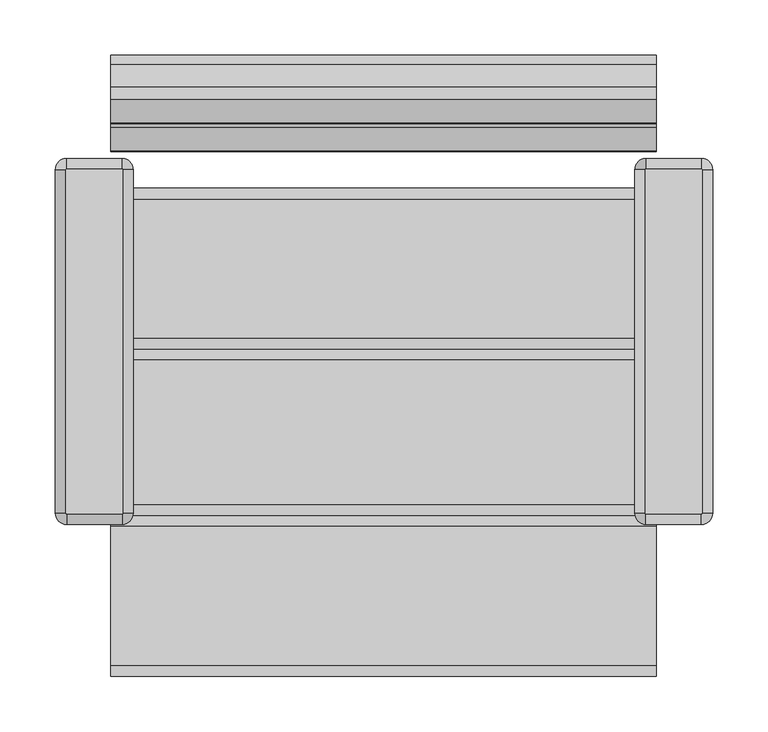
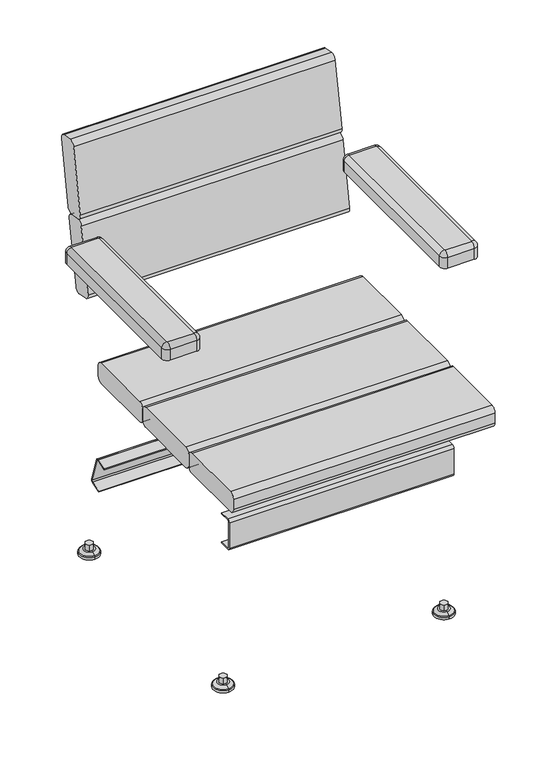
"""IFC4 building model written with IfcOpenShell, lengths in millimetres: furniture geometry, Roros Produkter - Trend - Chair - Armrests - 32974 : Roros Produkter - Trend - Chair - Armrests - 32974."""

from ifc_helpers import new_model, si_unit, point, frame, frame_2d, origin, place, context, project, spatial, polyline, circle_curve, ellipse_curve, trimmed, segment, composite_curve, outline, extrude, source, transform, mapped, element, save
from ifc_brep_helpers import plane_surface, cylinder_surface, revolved_surface, advanced_brep


def furniture_7d017813(model_context):
    return source(origin(), model_context, "Body", "SolidModel", [
        advanced_brep(
        [(-286.0, -180.9502129, 674.464), (-296.0, -170.9502129, 674.464), (-296.0, -170.9502129, 653.464), (-286.0, -180.9502129, 653.464), (-286.0, -171.9502129, 683.464), (-287.0, -170.9502129, 683.464), (-236.0, -180.9502129, 653.464), (-236.0, -180.9502129, 674.464), (-236.0, -171.9502129, 683.464), (-226.0, -170.9502129, 653.464), (-226.0, -170.9502129, 674.464), (-235.0, -170.9502129, 683.464), (-226.0, 139.0497871, 653.464), (-226.0, 139.0497871, 674.464), (-235.0, 139.0497871, 683.464), (-236.0, 149.0497871, 653.464), (-236.0, 149.0497871, 674.464), (-236.0, 140.0497871, 683.464), (-286.0, 149.0497871, 653.464), (-286.0, 149.0497871, 674.464), (-286.0, 140.0497871, 683.464), (-296.0, 139.0497871, 653.464), (-296.0, 139.0497871, 674.464), (-287.0, 139.0497871, 683.464)],
        [
            (0, 1, circle_curve(frame((-286.0, -170.9502129, 674.464), z_axis=(0.0, 0.0, -1.0), x_axis=(-1.0, 0.0, 0.0)), 10.0)),
            (1, 2),
            (2, 3, circle_curve(frame((-286.0, -170.9502129, 653.464), z_axis=(0.0, 0.0, 1.0), x_axis=(-1.0, 0.0, 0.0)), 10.0)),
            (3, 0),
            (0, 4, circle_curve(frame((-286.0, -171.9502129, 674.464), z_axis=(-1.0, 0.0, 0.0), x_axis=(0.0, 1.0, 0.0)), 9.0)),
            (4, 5, circle_curve(frame((-286.0, -170.9502129, 683.464), z_axis=(0.0, 0.0, -1.0), x_axis=(-1.0, 0.0, 0.0)), 1.0)),
            (5, 1, circle_curve(frame((-287.0, -170.9502129, 674.464), z_axis=(0.0, -1.0, 0.0), x_axis=(1.0, 0.0, 0.0)), 9.0)),
            (3, 6),
            (6, 7),
            (7, 0),
            (7, 8, circle_curve(frame((-236.0, -171.9502129, 674.464), z_axis=(-1.0, 0.0, 0.0), x_axis=(0.0, 1.0, 0.0)), 9.0)),
            (8, 4),
            (6, 9, circle_curve(frame((-236.0, -170.9502129, 653.464), z_axis=(0.0, 0.0, 1.0), x_axis=(0.0, -1.0, 0.0)), 10.0)),
            (9, 10),
            (10, 7, circle_curve(frame((-236.0, -170.9502129, 674.464), z_axis=(0.0, 0.0, -1.0), x_axis=(0.0, -1.0, 0.0)), 10.0)),
            (10, 11, circle_curve(frame((-235.0, -170.9502129, 674.464), z_axis=(0.0, -1.0, 0.0), x_axis=(-1.0, 0.0, 0.0)), 9.0)),
            (11, 8, circle_curve(frame((-236.0, -170.9502129, 683.464), z_axis=(0.0, 0.0, -1.0), x_axis=(0.0, -1.0, 0.0)), 1.0)),
            (9, 12),
            (12, 13),
            (13, 10),
            (13, 14, circle_curve(frame((-235.0, 139.0497871, 674.464), z_axis=(0.0, -1.0, 0.0), x_axis=(-1.0, 0.0, 0.0)), 9.0)),
            (14, 11),
            (12, 15, circle_curve(frame((-236.0, 139.0497871, 653.464), z_axis=(0.0, 0.0, 1.0), x_axis=(1.0, 0.0, 0.0)), 10.0)),
            (15, 16),
            (16, 13, circle_curve(frame((-236.0, 139.0497871, 674.464), z_axis=(0.0, 0.0, -1.0), x_axis=(1.0, 0.0, 0.0)), 10.0)),
            (16, 17, circle_curve(frame((-236.0, 140.0497871, 674.464), z_axis=(1.0, 0.0, 0.0), x_axis=(0.0, -1.0, 0.0)), 9.0)),
            (17, 14, circle_curve(frame((-236.0, 139.0497871, 683.464), z_axis=(0.0, 0.0, -1.0), x_axis=(1.0, 0.0, 0.0)), 1.0)),
            (15, 18),
            (18, 19),
            (19, 16),
            (19, 20, circle_curve(frame((-286.0, 140.0497871, 674.464), z_axis=(1.0, 0.0, 0.0), x_axis=(0.0, -1.0, 0.0)), 9.0)),
            (20, 17),
            (18, 21, circle_curve(frame((-286.0, 139.0497871, 653.464), z_axis=(0.0, 0.0, 1.0), x_axis=(0.0, 1.0, 0.0)), 10.0)),
            (21, 22),
            (22, 19, circle_curve(frame((-286.0, 139.0497871, 674.464), z_axis=(0.0, 0.0, -1.0), x_axis=(0.0, 1.0, 0.0)), 10.0)),
            (22, 23, circle_curve(frame((-287.0, 139.0497871, 674.464), z_axis=(0.0, 1.0, 0.0), x_axis=(1.0, 0.0, 0.0)), 9.0)),
            (23, 20, circle_curve(frame((-286.0, 139.0497871, 683.464), z_axis=(0.0, 0.0, -1.0), x_axis=(0.0, 1.0, 0.0)), 1.0)),
            (1, 22),
            (21, 2),
            (5, 23),
        ],
        [
            cylinder_surface(frame((-286.0, -170.9502129, 0.0), z_axis=(0.0, 0.0, 1.0), x_axis=(-1.0, 0.0, 0.0)), 10.0),
            revolved_surface(trimmed(ellipse_curve(frame((-287.0, -170.9502129, 674.464), z_axis=(0.0, 1.0, 0.0), x_axis=(1.0, 0.0, 0.0)), 9.0, 9.0), [point((-296.0, -170.9502129, 674.464))], [point((-287.0, -170.9502129, 683.464))], True, "CARTESIAN"), (-286.0, -170.9502129, 0.0), (0.0, 0.0, 1.0)),
            plane_surface(frame((-286.0, -180.9502129, 653.464), z_axis=(0.0, -1.0, 0.0), x_axis=(1.0, 0.0, 0.0))),
            cylinder_surface(frame((-286.0, -171.9502129, 674.464), z_axis=(-1.0, 0.0, 0.0), x_axis=(0.0, 1.0, 0.0)), 9.0),
            cylinder_surface(frame((-236.0, -170.9502129, 0.0), z_axis=(0.0, 0.0, 1.0), x_axis=(0.0, -1.0, 0.0)), 10.0),
            revolved_surface(trimmed(ellipse_curve(frame((-236.0, -171.9502129, 674.464), z_axis=(-1.0, 0.0, 0.0), x_axis=(0.0, 1.0, 0.0)), 9.0, 9.0), [point((-236.0, -180.9502129, 674.464))], [point((-236.0, -171.9502129, 683.464))], True, "CARTESIAN"), (-236.0, -170.9502129, 0.0), (0.0, 0.0, 1.0)),
            plane_surface(frame((-226.0, -170.9502129, 653.464), z_axis=(1.0, 0.0, 0.0), x_axis=(0.0, 1.0, 0.0))),
            cylinder_surface(frame((-235.0, -170.9502129, 674.464), z_axis=(0.0, -1.0, 0.0), x_axis=(-1.0, 0.0, 0.0)), 9.0),
            cylinder_surface(frame((-236.0, 139.0497871, 0.0), z_axis=(0.0, 0.0, 1.0), x_axis=(1.0, 0.0, 0.0)), 10.0),
            revolved_surface(trimmed(ellipse_curve(frame((-235.0, 139.0497871, 674.464), z_axis=(0.0, -1.0, 0.0), x_axis=(-1.0, 0.0, 0.0)), 9.0, 9.0), [point((-226.0, 139.0497871, 674.464))], [point((-235.0, 139.0497871, 683.464))], True, "CARTESIAN"), (-236.0, 139.0497871, 0.0), (0.0, 0.0, 1.0)),
            plane_surface(frame((-236.0, 149.0497871, 653.464), z_axis=(0.0, 1.0, 0.0), x_axis=(-1.0, 0.0, 0.0))),
            cylinder_surface(frame((-236.0, 140.0497871, 674.464), z_axis=(1.0, 0.0, 0.0), x_axis=(0.0, -1.0, 0.0)), 9.0),
            cylinder_surface(frame((-286.0, 139.0497871, 0.0), z_axis=(0.0, 0.0, 1.0), x_axis=(0.0, 1.0, 0.0)), 10.0),
            revolved_surface(trimmed(ellipse_curve(frame((-286.0, 140.0497871, 674.464), z_axis=(1.0, 0.0, 0.0), x_axis=(0.0, -1.0, 0.0)), 9.0, 9.0), [point((-286.0, 149.0497871, 674.464))], [point((-286.0, 140.0497871, 683.464))], True, "CARTESIAN"), (-286.0, 139.0497871, 0.0), (0.0, 0.0, 1.0)),
            plane_surface(frame((-296.0, 139.0497871, 653.464), z_axis=(-1.0, 0.0, 0.0), x_axis=(0.0, -1.0, 0.0))),
            cylinder_surface(frame((-287.0, 139.0497871, 674.464), z_axis=(0.0, 1.0, 0.0), x_axis=(1.0, 0.0, 0.0)), 9.0),
            plane_surface(frame((-287.0, 139.0497871, 653.464), z_axis=(0.0, 0.0, -1.0), x_axis=(0.0, -1.0, 0.0))),
            plane_surface(frame((-286.0, 140.0497871, 683.464), z_axis=(0.0, 0.0, 1.0), x_axis=(-1.0, 0.0, 0.0))),
        ],
        [
            (0, [[1, 2, 3, 4]]),
            (1, [[-1, 5, 6, 7]]),
            (2, [[-4, 8, 9, 10]]),
            (3, [[-5, -10, 11, 12]]),
            (4, [[-9, 13, 14, 15]]),
            (5, [[-11, -15, 16, 17]]),
            (6, [[-14, 18, 19, 20]]),
            (7, [[-16, -20, 21, 22]]),
            (8, [[-19, 23, 24, 25]]),
            (9, [[-21, -25, 26, 27]]),
            (10, [[-24, 28, 29, 30]]),
            (11, [[-26, -30, 31, 32]]),
            (12, [[-29, 33, 34, 35]]),
            (13, [[-31, -35, 36, 37]]),
            (14, [[-2, 38, -34, 39]]),
            (15, [[-7, 40, -36, -38]]),
            (16, [[-3, -39, -33, -28, -23, -18, -13, -8]]),
            (17, [[-6, -12, -17, -22, -27, -32, -37, -40]]),
        ],
    ),
        advanced_brep(
        [(286.0, -180.9502129, 674.464), (286.0, -180.9502129, 653.464), (296.0, -170.9502129, 653.464), (296.0, -170.9502129, 674.464), (287.0, -170.9502129, 683.464), (286.0, -171.9502129, 683.464), (236.0, -180.9502129, 674.464), (236.0, -180.9502129, 653.464), (236.0, -171.9502129, 683.464), (226.0, -170.9502129, 674.464), (226.0, -170.9502129, 653.464), (235.0, -170.9502129, 683.464), (226.0, 139.0497871, 674.464), (226.0, 139.0497871, 653.464), (235.0, 139.0497871, 683.464), (236.0, 149.0497871, 674.464), (236.0, 149.0497871, 653.464), (236.0, 140.0497871, 683.464), (286.0, 149.0497871, 674.464), (286.0, 149.0497871, 653.464), (286.0, 140.0497871, 683.464), (296.0, 139.0497871, 674.464), (296.0, 139.0497871, 653.464), (287.0, 139.0497871, 683.464)],
        [
            (0, 1),
            (1, 2, circle_curve(frame((286.0, -170.9502129, 653.464), z_axis=(0.0, 0.0, 1.0), x_axis=(1.0, 0.0, 0.0)), 10.0)),
            (2, 3),
            (3, 0, circle_curve(frame((286.0, -170.9502129, 674.464), z_axis=(0.0, 0.0, -1.0), x_axis=(1.0, 0.0, 0.0)), 10.0)),
            (3, 4, circle_curve(frame((287.0, -170.9502129, 674.464), z_axis=(0.0, -1.0, 0.0), x_axis=(-1.0, 0.0, 0.0)), 9.0)),
            (4, 5, circle_curve(frame((286.0, -170.9502129, 683.464), z_axis=(0.0, 0.0, -1.0), x_axis=(1.0, 0.0, 0.0)), 1.0)),
            (5, 0, circle_curve(frame((286.0, -171.9502129, 674.464), z_axis=(1.0, 0.0, 0.0), x_axis=(0.0, 1.0, 0.0)), 9.0)),
            (0, 6),
            (6, 7),
            (7, 1),
            (5, 8),
            (8, 6, circle_curve(frame((236.0, -171.9502129, 674.464), z_axis=(1.0, 0.0, 0.0), x_axis=(0.0, 1.0, 0.0)), 9.0)),
            (6, 9, circle_curve(frame((236.0, -170.9502129, 674.464), z_axis=(0.0, 0.0, -1.0), x_axis=(0.0, -1.0, 0.0)), 10.0)),
            (9, 10),
            (10, 7, circle_curve(frame((236.0, -170.9502129, 653.464), z_axis=(0.0, 0.0, 1.0), x_axis=(0.0, -1.0, 0.0)), 10.0)),
            (8, 11, circle_curve(frame((236.0, -170.9502129, 683.464), z_axis=(0.0, 0.0, -1.0), x_axis=(0.0, -1.0, 0.0)), 1.0)),
            (11, 9, circle_curve(frame((235.0, -170.9502129, 674.464), z_axis=(0.0, -1.0, 0.0), x_axis=(1.0, 0.0, 0.0)), 9.0)),
            (9, 12),
            (12, 13),
            (13, 10),
            (11, 14),
            (14, 12, circle_curve(frame((235.0, 139.0497871, 674.464), z_axis=(0.0, -1.0, 0.0), x_axis=(1.0, 0.0, 0.0)), 9.0)),
            (12, 15, circle_curve(frame((236.0, 139.0497871, 674.464), z_axis=(0.0, 0.0, -1.0), x_axis=(-1.0, 0.0, 0.0)), 10.0)),
            (15, 16),
            (16, 13, circle_curve(frame((236.0, 139.0497871, 653.464), z_axis=(0.0, 0.0, 1.0), x_axis=(-1.0, 0.0, 0.0)), 10.0)),
            (14, 17, circle_curve(frame((236.0, 139.0497871, 683.464), z_axis=(0.0, 0.0, -1.0), x_axis=(-1.0, 0.0, 0.0)), 1.0)),
            (17, 15, circle_curve(frame((236.0, 140.0497871, 674.464), z_axis=(-1.0, 0.0, 0.0), x_axis=(0.0, -1.0, 0.0)), 9.0)),
            (15, 18),
            (18, 19),
            (19, 16),
            (17, 20),
            (20, 18, circle_curve(frame((286.0, 140.0497871, 674.464), z_axis=(-1.0, 0.0, 0.0), x_axis=(0.0, -1.0, 0.0)), 9.0)),
            (18, 21, circle_curve(frame((286.0, 139.0497871, 674.464), z_axis=(0.0, 0.0, -1.0), x_axis=(0.0, 1.0, 0.0)), 10.0)),
            (21, 22),
            (22, 19, circle_curve(frame((286.0, 139.0497871, 653.464), z_axis=(0.0, 0.0, 1.0), x_axis=(0.0, 1.0, 0.0)), 10.0)),
            (20, 23, circle_curve(frame((286.0, 139.0497871, 683.464), z_axis=(0.0, 0.0, -1.0), x_axis=(0.0, 1.0, 0.0)), 1.0)),
            (23, 21, circle_curve(frame((287.0, 139.0497871, 674.464), z_axis=(0.0, 1.0, 0.0), x_axis=(-1.0, 0.0, 0.0)), 9.0)),
            (2, 22),
            (21, 3),
            (23, 4),
        ],
        [
            cylinder_surface(frame((286.0, -170.9502129, 0.0), z_axis=(0.0, 0.0, 1.0), x_axis=(1.0, 0.0, 0.0)), 10.0),
            revolved_surface(trimmed(ellipse_curve(frame((287.0, -170.9502129, 674.464), z_axis=(0.0, -1.0, 0.0), x_axis=(-1.0, 0.0, 0.0)), 9.0, 9.0), [point((296.0, -170.9502129, 674.464))], [point((287.0, -170.9502129, 683.464))], True, "CARTESIAN"), (286.0, -170.9502129, 0.0), (0.0, 0.0, 1.0)),
            plane_surface(frame((286.0, -180.9502129, 653.464), z_axis=(0.0, -1.0, 0.0), x_axis=(-1.0, 0.0, 0.0))),
            cylinder_surface(frame((286.0, -171.9502129, 674.464), z_axis=(1.0, 0.0, 0.0), x_axis=(0.0, 1.0, 0.0)), 9.0),
            cylinder_surface(frame((236.0, -170.9502129, 0.0), z_axis=(0.0, 0.0, 1.0), x_axis=(0.0, -1.0, 0.0)), 10.0),
            revolved_surface(trimmed(ellipse_curve(frame((236.0, -171.9502129, 674.464), z_axis=(-1.0, 0.0, 0.0), x_axis=(0.0, 1.0, 0.0)), 9.0, 9.0), [point((236.0, -180.9502129, 674.464))], [point((236.0, -171.9502129, 683.464))], True, "CARTESIAN"), (236.0, -170.9502129, 0.0), (0.0, 0.0, 1.0)),
            plane_surface(frame((226.0, -170.9502129, 653.464), z_axis=(-1.0, 0.0, 0.0), x_axis=(0.0, 1.0, 0.0))),
            cylinder_surface(frame((235.0, -170.9502129, 674.464), z_axis=(0.0, -1.0, 0.0), x_axis=(1.0, 0.0, 0.0)), 9.0),
            cylinder_surface(frame((236.0, 139.0497871, 0.0), z_axis=(0.0, 0.0, 1.0), x_axis=(-1.0, 0.0, 0.0)), 10.0),
            revolved_surface(trimmed(ellipse_curve(frame((235.0, 139.0497871, 674.464), z_axis=(0.0, 1.0, 0.0), x_axis=(1.0, 0.0, 0.0)), 9.0, 9.0), [point((226.0, 139.0497871, 674.464))], [point((235.0, 139.0497871, 683.464))], True, "CARTESIAN"), (236.0, 139.0497871, 0.0), (0.0, 0.0, 1.0)),
            plane_surface(frame((236.0, 149.0497871, 653.464), z_axis=(0.0, 1.0, 0.0), x_axis=(1.0, 0.0, 0.0))),
            cylinder_surface(frame((236.0, 140.0497871, 674.464), z_axis=(-1.0, 0.0, 0.0), x_axis=(0.0, -1.0, 0.0)), 9.0),
            cylinder_surface(frame((286.0, 139.0497871, 0.0), z_axis=(0.0, 0.0, 1.0), x_axis=(0.0, 1.0, 0.0)), 10.0),
            revolved_surface(trimmed(ellipse_curve(frame((286.0, 140.0497871, 674.464), z_axis=(1.0, 0.0, 0.0), x_axis=(0.0, -1.0, 0.0)), 9.0, 9.0), [point((286.0, 149.0497871, 674.464))], [point((286.0, 140.0497871, 683.464))], True, "CARTESIAN"), (286.0, 139.0497871, 0.0), (0.0, 0.0, 1.0)),
            plane_surface(frame((296.0, 139.0497871, 653.464), z_axis=(1.0, 0.0, 0.0), x_axis=(0.0, -1.0, 0.0))),
            cylinder_surface(frame((287.0, 139.0497871, 674.464), z_axis=(0.0, 1.0, 0.0), x_axis=(-1.0, 0.0, 0.0)), 9.0),
            plane_surface(frame((287.0, 139.0497871, 653.464), z_axis=(0.0, 0.0, -1.0), x_axis=(0.0, -1.0, 0.0))),
            plane_surface(frame((286.0, 140.0497871, 683.464), z_axis=(0.0, 0.0, 1.0), x_axis=(1.0, 0.0, 0.0))),
        ],
        [
            (0, [[1, 2, 3, 4]]),
            (1, [[5, 6, 7, -4]]),
            (2, [[8, 9, 10, -1]]),
            (3, [[11, 12, -8, -7]]),
            (4, [[13, 14, 15, -9]]),
            (5, [[16, 17, -13, -12]]),
            (6, [[18, 19, 20, -14]]),
            (7, [[21, 22, -18, -17]]),
            (8, [[23, 24, 25, -19]]),
            (9, [[26, 27, -23, -22]]),
            (10, [[28, 29, 30, -24]]),
            (11, [[31, 32, -28, -27]]),
            (12, [[33, 34, 35, -29]]),
            (13, [[36, 37, -33, -32]]),
            (14, [[38, -34, 39, -3]]),
            (15, [[-39, -37, 40, -5]]),
            (16, [[-10, -15, -20, -25, -30, -35, -38, -2]]),
            (17, [[-40, -36, -31, -26, -21, -16, -11, -6]]),
        ],
    ),
        extrude(outline(polyline([(210.9527767, -224.3308404), (203.4472233, -224.3308404), (199.6944465, -217.8308404), (203.4472233, -211.3308404), (210.9527767, -211.3308404), (214.7055535, -217.8308404), (210.9527767, -224.3308404)])), frame((0.0, 0.0, 10.0), z_axis=(0.0, 0.0, 1.0), x_axis=(1.0, 0.0, 0.0)), (0.0, 0.0, 1.0), 11.7),
        advanced_brep(
        [(207.18125, -199.3308404, 4.3376919), (207.18125, -236.3308404, 4.3376919), (207.18125, -236.3308404, 0.0), (207.18125, -199.3308404, 0.0), (207.18125, -200.3216002, 6.0888539), (207.18125, -235.3400807, 6.0888539), (207.18125, -206.8308404, 10.0), (207.18125, -228.8308404, 10.0), (207.18125, -217.8308404, 10.0), (207.18125, -217.8308404, 0.0)],
        [
            (0, 1, circle_curve(frame((207.18125, -217.8308404, 4.3376919), z_axis=(0.0, 0.0, -1.0), x_axis=(0.0, -1.0, 0.0)), 18.5)),
            (1, 2),
            (2, 3, circle_curve(frame((207.18125, -217.8308404, 0.0), z_axis=(0.0, 0.0, 1.0), x_axis=(0.0, -1.0, 0.0)), 18.5)),
            (3, 0),
            (1, 0, circle_curve(frame((207.18125, -217.8308404, 4.3376919), z_axis=(0.0, 0.0, -1.0), x_axis=(0.0, -1.0, 0.0)), 18.5)),
            (3, 2, circle_curve(frame((207.18125, -217.8308404, 0.0), z_axis=(0.0, 0.0, 1.0), x_axis=(0.0, -1.0, 0.0)), 18.5)),
            (4, 5, circle_curve(frame((207.18125, -217.8308404, 6.0888539), z_axis=(0.0, 0.0, -1.0), x_axis=(0.0, -1.0, 0.0)), 17.5092402)),
            (5, 1, circle_curve(frame((207.18125, -234.2878764, 4.3376919), z_axis=(1.0, 0.0, 0.0), x_axis=(0.0, 1.0, 0.0)), 2.042964)),
            (0, 4, circle_curve(frame((207.18125, -201.3738045, 4.3376919), z_axis=(1.0, 0.0, 0.0), x_axis=(0.0, -1.0, 0.0)), 2.042964)),
            (5, 4, circle_curve(frame((207.18125, -217.8308404, 6.0888539), z_axis=(0.0, 0.0, -1.0), x_axis=(0.0, -1.0, 0.0)), 17.5092402)),
            (6, 7, circle_curve(frame((207.18125, -217.8308404, 10.0), z_axis=(0.0, 0.0, -1.0), x_axis=(0.0, -1.0, 0.0)), 11.0)),
            (7, 5),
            (4, 6),
            (7, 6, circle_curve(frame((207.18125, -217.8308404, 10.0), z_axis=(0.0, 0.0, -1.0), x_axis=(0.0, -1.0, 0.0)), 11.0)),
            (8, 7),
            (6, 8),
            (2, 9),
            (9, 3),
        ],
        [
            cylinder_surface(frame((207.18125, -217.8308404, 10.0), z_axis=(0.0, 0.0, 1.0), x_axis=(0.0, -1.0, 0.0)), 18.5),
            revolved_surface(trimmed(ellipse_curve(frame((207.18125, -234.2878764, 4.3376919), z_axis=(-1.0, 0.0, 0.0), x_axis=(0.0, 1.0, 0.0)), 2.042964, 2.042964), [point((207.18125, -236.3308404, 4.3376919))], [point((207.18125, -235.3400807, 6.0888539))], True, "CARTESIAN"), (207.18125, -217.8308404, 10.0), (0.0, 0.0, 1.0)),
            revolved_surface(polyline([(207.18125, -235.3400807, 6.0888539), (207.18125, -228.8308404, 10.0)]), (207.18125, -217.8308404, 10.0), (0.0, 0.0, 1.0)),
            plane_surface(frame((207.18125, -217.8308404, 10.0), z_axis=(0.0, 0.0, 1.0), x_axis=(0.0, -1.0, 0.0))),
            plane_surface(frame((207.18125, -217.8308404, 0.0), z_axis=(0.0, 0.0, -1.0), x_axis=(0.0, -1.0, 0.0))),
        ],
        [
            (0, [[1, 2, 3, 4]]),
            (0, [[5, -4, 6, -2]]),
            (1, [[7, 8, -1, 9]]),
            (1, [[10, -9, -5, -8]]),
            (2, [[11, 12, -7, 13]]),
            (2, [[14, -13, -10, -12]]),
            (3, [[15, -11, 16]]),
            (3, [[-16, -14, -15]]),
            (4, [[-3, 17, 18]]),
            (4, [[-6, -18, -17]]),
        ],
    ),
        extrude(outline(polyline([(210.9527767, 224.3308404), (214.7055535, 217.8308404), (210.9527767, 211.3308404), (203.4472233, 211.3308404), (199.6944465, 217.8308404), (203.4472233, 224.3308404), (210.9527767, 224.3308404)])), frame((0.0, 0.0, 10.0), z_axis=(0.0, 0.0, 1.0), x_axis=(1.0, 0.0, 0.0)), (0.0, 0.0, 1.0), 11.7),
        advanced_brep(
        [(207.18125, 199.3308404, 0.0), (207.18125, 236.3308404, 0.0), (207.18125, 236.3308404, 4.3376919), (207.18125, 199.3308404, 4.3376919), (207.18125, 235.3400807, 6.0888539), (207.18125, 200.3216002, 6.0888539), (207.18125, 228.8308404, 10.0), (207.18125, 206.8308404, 10.0), (207.18125, 217.8308404, 10.0), (207.18125, 217.8308404, 0.0)],
        [
            (0, 1, circle_curve(frame((207.18125, 217.8308404, 0.0), z_axis=(0.0, 0.0, 1.0), x_axis=(0.0, 1.0, 0.0)), 18.5)),
            (1, 2),
            (2, 3, circle_curve(frame((207.18125, 217.8308404, 4.3376919), z_axis=(0.0, 0.0, -1.0), x_axis=(0.0, 1.0, 0.0)), 18.5)),
            (3, 0),
            (1, 0, circle_curve(frame((207.18125, 217.8308404, 0.0), z_axis=(0.0, 0.0, 1.0), x_axis=(0.0, 1.0, 0.0)), 18.5)),
            (3, 2, circle_curve(frame((207.18125, 217.8308404, 4.3376919), z_axis=(0.0, 0.0, -1.0), x_axis=(0.0, 1.0, 0.0)), 18.5)),
            (2, 4, circle_curve(frame((207.18125, 234.2878764, 4.3376919), z_axis=(1.0, 0.0, 0.0), x_axis=(0.0, -1.0, 0.0)), 2.042964)),
            (4, 5, circle_curve(frame((207.18125, 217.8308404, 6.0888539), z_axis=(0.0, 0.0, -1.0), x_axis=(0.0, 1.0, 0.0)), 17.5092402)),
            (5, 3, circle_curve(frame((207.18125, 201.3738045, 4.3376919), z_axis=(1.0, 0.0, 0.0), x_axis=(0.0, 1.0, 0.0)), 2.042964)),
            (5, 4, circle_curve(frame((207.18125, 217.8308404, 6.0888539), z_axis=(0.0, 0.0, -1.0), x_axis=(0.0, 1.0, 0.0)), 17.5092402)),
            (4, 6),
            (6, 7, circle_curve(frame((207.18125, 217.8308404, 10.0), z_axis=(0.0, 0.0, -1.0), x_axis=(0.0, 1.0, 0.0)), 11.0)),
            (7, 5),
            (7, 6, circle_curve(frame((207.18125, 217.8308404, 10.0), z_axis=(0.0, 0.0, -1.0), x_axis=(0.0, 1.0, 0.0)), 11.0)),
            (6, 8),
            (8, 7),
            (9, 1),
            (0, 9),
        ],
        [
            cylinder_surface(frame((207.18125, 217.8308404, 10.0), z_axis=(0.0, 0.0, -1.0), x_axis=(0.0, 1.0, 0.0)), 18.5),
            revolved_surface(trimmed(ellipse_curve(frame((207.18125, 234.2878764, 4.3376919), z_axis=(-1.0, 0.0, 0.0), x_axis=(0.0, -1.0, 0.0)), 2.042964, 2.042964), [point((207.18125, 235.3400807, 6.0888539))], [point((207.18125, 236.3308404, 4.3376919))], True, "CARTESIAN"), (207.18125, 217.8308404, 10.0), (0.0, 0.0, -1.0)),
            revolved_surface(polyline([(207.18125, 228.8308404, 10.0), (207.18125, 235.3400807, 6.0888539)]), (207.18125, 217.8308404, 10.0), (0.0, 0.0, -1.0)),
            plane_surface(frame((207.18125, 217.8308404, 10.0), z_axis=(0.0, 0.0, 1.0), x_axis=(0.0, 1.0, 0.0))),
            plane_surface(frame((207.18125, 217.8308404, 0.0), z_axis=(0.0, 0.0, -1.0), x_axis=(0.0, 1.0, 0.0))),
        ],
        [
            (0, [[1, 2, 3, 4]]),
            (0, [[5, -4, 6, -2]]),
            (1, [[-3, 7, 8, 9]]),
            (1, [[-6, -9, 10, -7]]),
            (2, [[-8, 11, 12, 13]]),
            (2, [[-10, -13, 14, -11]]),
            (3, [[-12, 15, 16]]),
            (3, [[-14, -16, -15]]),
            (4, [[17, -1, 18]]),
            (4, [[-18, -5, -17]]),
        ],
    ),
        extrude(outline(polyline([(-211.5527767, -224.3308404), (-215.3055535, -217.8308404), (-211.5527767, -211.3308404), (-204.0472233, -211.3308404), (-200.2944465, -217.8308404), (-204.0472233, -224.3308404), (-211.5527767, -224.3308404)])), frame((0.0, 0.0, 10.0), z_axis=(0.0, 0.0, 1.0), x_axis=(1.0, 0.0, 0.0)), (0.0, 0.0, 1.0), 11.7),
        advanced_brep(
        [(-207.78125, -199.3308404, 0.0), (-207.78125, -236.3308404, 0.0), (-207.78125, -236.3308404, 4.3376919), (-207.78125, -199.3308404, 4.3376919), (-207.78125, -235.3400807, 6.0888539), (-207.78125, -200.3216002, 6.0888539), (-207.78125, -228.8308404, 10.0), (-207.78125, -206.8308404, 10.0), (-207.78125, -217.8308404, 10.0), (-207.78125, -217.8308404, 0.0)],
        [
            (0, 1, circle_curve(frame((-207.78125, -217.8308404, 0.0), z_axis=(0.0, 0.0, 1.0), x_axis=(0.0, -1.0, 0.0)), 18.5)),
            (1, 2),
            (2, 3, circle_curve(frame((-207.78125, -217.8308404, 4.3376919), z_axis=(0.0, 0.0, -1.0), x_axis=(0.0, -1.0, 0.0)), 18.5)),
            (3, 0),
            (1, 0, circle_curve(frame((-207.78125, -217.8308404, 0.0), z_axis=(0.0, 0.0, 1.0), x_axis=(0.0, -1.0, 0.0)), 18.5)),
            (3, 2, circle_curve(frame((-207.78125, -217.8308404, 4.3376919), z_axis=(0.0, 0.0, -1.0), x_axis=(0.0, -1.0, 0.0)), 18.5)),
            (2, 4, circle_curve(frame((-207.78125, -234.2878764, 4.3376919), z_axis=(-1.0, 0.0, 0.0), x_axis=(0.0, 1.0, 0.0)), 2.042964)),
            (4, 5, circle_curve(frame((-207.78125, -217.8308404, 6.0888539), z_axis=(0.0, 0.0, -1.0), x_axis=(0.0, -1.0, 0.0)), 17.5092402)),
            (5, 3, circle_curve(frame((-207.78125, -201.3738045, 4.3376919), z_axis=(-1.0, 0.0, 0.0), x_axis=(0.0, -1.0, 0.0)), 2.042964)),
            (5, 4, circle_curve(frame((-207.78125, -217.8308404, 6.0888539), z_axis=(0.0, 0.0, -1.0), x_axis=(0.0, -1.0, 0.0)), 17.5092402)),
            (4, 6),
            (6, 7, circle_curve(frame((-207.78125, -217.8308404, 10.0), z_axis=(0.0, 0.0, -1.0), x_axis=(0.0, -1.0, 0.0)), 11.0)),
            (7, 5),
            (7, 6, circle_curve(frame((-207.78125, -217.8308404, 10.0), z_axis=(0.0, 0.0, -1.0), x_axis=(0.0, -1.0, 0.0)), 11.0)),
            (6, 8),
            (8, 7),
            (9, 1),
            (0, 9),
        ],
        [
            cylinder_surface(frame((-207.78125, -217.8308404, 10.0), z_axis=(0.0, 0.0, -1.0), x_axis=(0.0, -1.0, 0.0)), 18.5),
            revolved_surface(trimmed(ellipse_curve(frame((-207.78125, -234.2878764, 4.3376919), z_axis=(1.0, 0.0, 0.0), x_axis=(0.0, 1.0, 0.0)), 2.042964, 2.042964), [point((-207.78125, -235.3400807, 6.0888539))], [point((-207.78125, -236.3308404, 4.3376919))], True, "CARTESIAN"), (-207.78125, -217.8308404, 10.0), (0.0, 0.0, -1.0)),
            revolved_surface(polyline([(-207.78125, -228.8308404, 10.0), (-207.78125, -235.3400807, 6.0888539)]), (-207.78125, -217.8308404, 10.0), (0.0, 0.0, -1.0)),
            plane_surface(frame((-207.78125, -217.8308404, 10.0), z_axis=(0.0, 0.0, 1.0), x_axis=(0.0, -1.0, 0.0))),
            plane_surface(frame((-207.78125, -217.8308404, 0.0), z_axis=(0.0, 0.0, -1.0), x_axis=(0.0, -1.0, 0.0))),
        ],
        [
            (0, [[1, 2, 3, 4]]),
            (0, [[5, -4, 6, -2]]),
            (1, [[-3, 7, 8, 9]]),
            (1, [[-6, -9, 10, -7]]),
            (2, [[-8, 11, 12, 13]]),
            (2, [[-10, -13, 14, -11]]),
            (3, [[-12, 15, 16]]),
            (3, [[-14, -16, -15]]),
            (4, [[17, -1, 18]]),
            (4, [[-18, -5, -17]]),
        ],
    ),
        extrude(outline(polyline([(-211.5527767, 224.3308404), (-204.0472233, 224.3308404), (-200.2944465, 217.8308404), (-204.0472233, 211.3308404), (-211.5527767, 211.3308404), (-215.3055535, 217.8308404), (-211.5527767, 224.3308404)])), frame((0.0, 0.0, 10.0), z_axis=(0.0, 0.0, 1.0), x_axis=(1.0, 0.0, 0.0)), (0.0, 0.0, 1.0), 11.7),
        advanced_brep(
        [(-207.78125, 199.3308404, 4.3376919), (-207.78125, 236.3308404, 4.3376919), (-207.78125, 236.3308404, 0.0), (-207.78125, 199.3308404, 0.0), (-207.78125, 200.3216002, 6.0888539), (-207.78125, 235.3400807, 6.0888539), (-207.78125, 206.8308404, 10.0), (-207.78125, 228.8308404, 10.0), (-207.78125, 217.8308404, 10.0), (-207.78125, 217.8308404, 0.0)],
        [
            (0, 1, circle_curve(frame((-207.78125, 217.8308404, 4.3376919), z_axis=(0.0, 0.0, -1.0), x_axis=(0.0, 1.0, 0.0)), 18.5)),
            (1, 2),
            (2, 3, circle_curve(frame((-207.78125, 217.8308404, 0.0), z_axis=(0.0, 0.0, 1.0), x_axis=(0.0, 1.0, 0.0)), 18.5)),
            (3, 0),
            (1, 0, circle_curve(frame((-207.78125, 217.8308404, 4.3376919), z_axis=(0.0, 0.0, -1.0), x_axis=(0.0, 1.0, 0.0)), 18.5)),
            (3, 2, circle_curve(frame((-207.78125, 217.8308404, 0.0), z_axis=(0.0, 0.0, 1.0), x_axis=(0.0, 1.0, 0.0)), 18.5)),
            (4, 5, circle_curve(frame((-207.78125, 217.8308404, 6.0888539), z_axis=(0.0, 0.0, -1.0), x_axis=(0.0, 1.0, 0.0)), 17.5092402)),
            (5, 1, circle_curve(frame((-207.78125, 234.2878764, 4.3376919), z_axis=(-1.0, 0.0, 0.0), x_axis=(0.0, -1.0, 0.0)), 2.042964)),
            (0, 4, circle_curve(frame((-207.78125, 201.3738045, 4.3376919), z_axis=(-1.0, 0.0, 0.0), x_axis=(0.0, 1.0, 0.0)), 2.042964)),
            (5, 4, circle_curve(frame((-207.78125, 217.8308404, 6.0888539), z_axis=(0.0, 0.0, -1.0), x_axis=(0.0, 1.0, 0.0)), 17.5092402)),
            (6, 7, circle_curve(frame((-207.78125, 217.8308404, 10.0), z_axis=(0.0, 0.0, -1.0), x_axis=(0.0, 1.0, 0.0)), 11.0)),
            (7, 5),
            (4, 6),
            (7, 6, circle_curve(frame((-207.78125, 217.8308404, 10.0), z_axis=(0.0, 0.0, -1.0), x_axis=(0.0, 1.0, 0.0)), 11.0)),
            (8, 7),
            (6, 8),
            (2, 9),
            (9, 3),
        ],
        [
            cylinder_surface(frame((-207.78125, 217.8308404, 10.0), z_axis=(0.0, 0.0, 1.0), x_axis=(0.0, 1.0, 0.0)), 18.5),
            revolved_surface(trimmed(ellipse_curve(frame((-207.78125, 234.2878764, 4.3376919), z_axis=(1.0, 0.0, 0.0), x_axis=(0.0, -1.0, 0.0)), 2.042964, 2.042964), [point((-207.78125, 236.3308404, 4.3376919))], [point((-207.78125, 235.3400807, 6.0888539))], True, "CARTESIAN"), (-207.78125, 217.8308404, 10.0), (0.0, 0.0, 1.0)),
            revolved_surface(polyline([(-207.78125, 235.3400807, 6.0888539), (-207.78125, 228.8308404, 10.0)]), (-207.78125, 217.8308404, 10.0), (0.0, 0.0, 1.0)),
            plane_surface(frame((-207.78125, 217.8308404, 10.0), z_axis=(0.0, 0.0, 1.0), x_axis=(0.0, 1.0, 0.0))),
            plane_surface(frame((-207.78125, 217.8308404, 0.0), z_axis=(0.0, 0.0, -1.0), x_axis=(0.0, 1.0, 0.0))),
        ],
        [
            (0, [[1, 2, 3, 4]]),
            (0, [[5, -4, 6, -2]]),
            (1, [[7, 8, -1, 9]]),
            (1, [[10, -9, -5, -8]]),
            (2, [[11, 12, -7, 13]]),
            (2, [[14, -13, -10, -12]]),
            (3, [[15, -11, 16]]),
            (3, [[-16, -14, -15]]),
            (4, [[-3, 17, 18]]),
            (4, [[-6, -18, -17]]),
        ],
    ),
        extrude(outline(composite_curve([segment(trimmed(circle_curve(frame_2d((-32.8308404, 445.464)), 10.0), [point((-32.8308404, 455.464))], [point((-22.8308404, 445.464))], False, "CARTESIAN"), True, "CONTINUOUS"), segment(polyline([(-22.8308404, 445.464), (-22.8308404, 425.464)]), True, "CONTINUOUS"), segment(trimmed(circle_curve(frame_2d((-32.8308404, 425.464)), 10.0), [point((-22.8308404, 425.464))], [point((-32.8308404, 415.464))], False, "CARTESIAN"), True, "CONTINUOUS"), segment(polyline([(-32.8308404, 415.464), (-162.8308404, 415.464)]), True, "CONTINUOUS"), segment(trimmed(circle_curve(frame_2d((-162.8308404, 425.464)), 10.0), [point((-162.8308404, 415.464))], [point((-172.8308404, 425.464))], False, "CARTESIAN"), True, "CONTINUOUS"), segment(polyline([(-172.8308404, 425.464), (-172.8308404, 445.464)]), True, "CONTINUOUS"), segment(trimmed(circle_curve(frame_2d((-162.8308404, 445.464)), 10.0), [point((-172.8308404, 445.464))], [point((-162.8308404, 455.464))], False, "CARTESIAN"), True, "CONTINUOUS"), segment(polyline([(-162.8308404, 455.464), (-32.8308404, 455.464)]), True, "CONTINUOUS")], self_intersect=False)), frame((-246.0, 0.0, 0.0), z_axis=(1.0, 0.0, 0.0), x_axis=(0.0, 1.0, 0.0)), (0.0, 0.0, 1.0), 491.4),
        extrude(outline(composite_curve([segment(trimmed(circle_curve(frame_2d((231.9175378, 825.7240761)), 10.0), [point((233.6540196, 835.5721536))], [point((241.7656153, 823.9875943))], False, "CARTESIAN"), True, "CONTINUOUS"), segment(polyline([(241.7656153, 823.9875943), (220.0595931, 700.8866252)]), True, "CONTINUOUS"), segment(trimmed(circle_curve(frame_2d((210.2115156, 702.623107)), 10.0), [point((220.0595931, 700.8866252))], [point((208.4750338, 692.7750295))], False, "CARTESIAN"), True, "CONTINUOUS"), segment(polyline([(208.4750338, 692.7750295), (188.7788787, 696.247993)]), True, "CONTINUOUS"), segment(trimmed(circle_curve(frame_2d((190.5153605, 706.0960705)), 10.0), [point((188.7788787, 696.247993))], [point((180.667283, 707.8325523))], False, "CARTESIAN"), True, "CONTINUOUS"), segment(polyline([(180.667283, 707.8325523), (202.3733052, 830.9335214)]), True, "CONTINUOUS"), segment(trimmed(circle_curve(frame_2d((212.2213827, 829.1970397)), 10.0), [point((202.3733052, 830.9335214))], [point((213.9578645, 839.0451172))], False, "CARTESIAN"), True, "CONTINUOUS"), segment(polyline([(213.9578645, 839.0451172), (233.6540196, 835.5721536)]), True, "CONTINUOUS")], self_intersect=False)), frame((-246.0, 0.0, 0.0), z_axis=(1.0, 0.0, 0.0), x_axis=(0.0, 1.0, 0.0)), (0.0, 0.0, 1.0), 491.4),
        extrude(outline(composite_curve([segment(trimmed(circle_curve(frame_2d((112.1691596, 445.464)), 10.0), [point((112.1691596, 455.464))], [point((122.1691596, 445.464))], False, "CARTESIAN"), True, "CONTINUOUS"), segment(polyline([(122.1691596, 445.464), (122.1691596, 425.464)]), True, "CONTINUOUS"), segment(trimmed(circle_curve(frame_2d((112.1691596, 425.464)), 10.0), [point((122.1691596, 425.464))], [point((112.1691596, 415.464))], False, "CARTESIAN"), True, "CONTINUOUS"), segment(polyline([(112.1691596, 415.464), (-12.8308404, 415.464)]), True, "CONTINUOUS"), segment(trimmed(circle_curve(frame_2d((-12.8308404, 425.464)), 10.0), [point((-12.8308404, 415.464))], [point((-22.8308404, 425.464))], False, "CARTESIAN"), True, "CONTINUOUS"), segment(polyline([(-22.8308404, 425.464), (-22.8308404, 445.464)]), True, "CONTINUOUS"), segment(trimmed(circle_curve(frame_2d((-12.8308404, 445.464)), 10.0), [point((-22.8308404, 445.464))], [point((-12.8308404, 455.464))], False, "CARTESIAN"), True, "CONTINUOUS"), segment(polyline([(-12.8308404, 455.464), (112.1691596, 455.464)]), True, "CONTINUOUS")], self_intersect=False)), frame((-246.0, 0.0, 0.0), z_axis=(1.0, 0.0, 0.0), x_axis=(0.0, 1.0, 0.0)), (0.0, 0.0, 1.0), 491.4),
        extrude(outline(composite_curve([segment(trimmed(circle_curve(frame_2d((-182.8308404, 445.464)), 10.0), [point((-182.8308404, 455.464))], [point((-172.8308404, 445.464))], False, "CARTESIAN"), True, "CONTINUOUS"), segment(polyline([(-172.8308404, 445.464), (-172.8308404, 425.464)]), True, "CONTINUOUS"), segment(trimmed(circle_curve(frame_2d((-182.8308404, 425.464)), 10.0), [point((-172.8308404, 425.464))], [point((-182.8308404, 415.464))], False, "CARTESIAN"), True, "CONTINUOUS"), segment(polyline([(-182.8308404, 415.464), (-307.8308404, 415.464)]), True, "CONTINUOUS"), segment(trimmed(circle_curve(frame_2d((-307.8308404, 425.464)), 10.0), [point((-307.8308404, 415.464))], [point((-317.8308404, 425.464))], False, "CARTESIAN"), True, "CONTINUOUS"), segment(polyline([(-317.8308404, 425.464), (-317.8308404, 445.464)]), True, "CONTINUOUS"), segment(trimmed(circle_curve(frame_2d((-307.8308404, 445.464)), 10.0), [point((-317.8308404, 445.464))], [point((-307.8308404, 455.464))], False, "CARTESIAN"), True, "CONTINUOUS"), segment(polyline([(-307.8308404, 455.464), (-182.8308404, 455.464)]), True, "CONTINUOUS")], self_intersect=False)), frame((-246.0, 0.0, 0.0), z_axis=(1.0, 0.0, 0.0), x_axis=(0.0, 1.0, 0.0)), (0.0, 0.0, 1.0), 491.4),
        extrude(outline(composite_curve([segment(trimmed(circle_curve(frame_2d((165.3363748, 563.2989464)), 10.0), [point((163.599893, 553.4508688))], [point((155.4882972, 565.0354281))], False, "CARTESIAN"), True, "CONTINUOUS"), segment(polyline([(155.4882972, 565.0354281), (177.1943194, 688.1363973)]), True, "CONTINUOUS"), segment(trimmed(circle_curve(frame_2d((187.042397, 686.3999155)), 10.0), [point((177.1943194, 688.1363973))], [point((188.7788787, 696.247993))], False, "CARTESIAN"), True, "CONTINUOUS"), segment(polyline([(188.7788787, 696.247993), (208.4750338, 692.7750295)]), True, "CONTINUOUS"), segment(trimmed(circle_curve(frame_2d((206.738552, 682.9269519)), 10.0), [point((208.4750338, 692.7750295))], [point((216.5866296, 681.1904701))], False, "CARTESIAN"), True, "CONTINUOUS"), segment(polyline([(216.5866296, 681.1904701), (194.8806073, 558.089501)]), True, "CONTINUOUS"), segment(trimmed(circle_curve(frame_2d((185.0325298, 559.8259828)), 10.0), [point((194.8806073, 558.089501))], [point((183.296048, 549.9779053))], False, "CARTESIAN"), True, "CONTINUOUS"), segment(polyline([(183.296048, 549.9779053), (163.599893, 553.4508688)]), True, "CONTINUOUS")], self_intersect=False)), frame((-246.0, 0.0, 0.0), z_axis=(1.0, 0.0, 0.0), x_axis=(0.0, 1.0, 0.0)), (0.0, 0.0, 1.0), 491.4),
        extrude(outline(composite_curve([segment(polyline([(-239.3308404, 346.7777471), (-218.8308404, 346.7777471), (-218.8308404, 344.777747), (-239.3308404, 344.777747)]), True, "CONTINUOUS"), segment(trimmed(circle_curve(frame_2d((-239.3308404, 342.277747)), 2.5), [point((-239.3308404, 344.777747))], [point((-241.8308404, 342.277747))], True, "CARTESIAN"), True, "CONTINUOUS"), segment(polyline([(-241.8308404, 342.277747), (-241.8308404, 291.2777432)]), True, "CONTINUOUS"), segment(trimmed(circle_curve(frame_2d((-239.3308404, 291.2777432)), 2.5), [point((-241.8308404, 291.2777432))], [point((-239.3308404, 288.7777432))], True, "CARTESIAN"), True, "CONTINUOUS"), segment(polyline([(-239.3308404, 288.7777432), (-218.8308404, 288.7777432), (-218.8308404, 286.7777431), (-239.3308404, 286.7777431)]), True, "CONTINUOUS"), segment(trimmed(circle_curve(frame_2d((-239.3308404, 291.2777431)), 4.5), [point((-239.3308404, 286.7777431))], [point((-243.8308404, 291.2777431))], False, "CARTESIAN"), True, "CONTINUOUS"), segment(polyline([(-243.8308404, 291.2777431), (-243.8308404, 342.2777471)]), True, "CONTINUOUS"), segment(trimmed(circle_curve(frame_2d((-239.3308404, 342.2777471)), 4.5), [point((-243.8308404, 342.2777471))], [point((-239.3308404, 346.7777471))], False, "CARTESIAN"), True, "CONTINUOUS")], self_intersect=False)), frame((-211.0, 0.0, 0.0), z_axis=(1.0, 0.0, 0.0), x_axis=(0.0, 1.0, 0.0)), (0.0, 0.0, 1.0), 422.0),
        extrude(outline(composite_curve([segment(polyline([(162.9895923, 202.3205145), (182.4862509, 208.6553629)]), True, "CONTINUOUS"), segment(trimmed(circle_curve(frame_2d((183.8768274, 204.3756086)), 4.5), [point((182.4862509, 208.6553629))], [point((188.1565817, 205.766185))], False, "CARTESIAN"), True, "CONTINUOUS"), segment(polyline([(188.1565817, 205.766185), (203.9059435, 157.2946335)]), True, "CONTINUOUS"), segment(trimmed(circle_curve(frame_2d((199.5938584, 155.8935521)), 4.5339946), [point((203.9059435, 157.2946335))], [point((200.9949398, 151.581467))], False, "CARTESIAN"), True, "CONTINUOUS"), segment(polyline([(200.9949398, 151.581467), (181.530612, 145.2571235), (180.912578, 147.1592366), (200.4250242, 153.4992147)]), True, "CONTINUOUS"), segment(trimmed(circle_curve(frame_2d((199.6576115, 155.8610683)), 2.4833999), [point((200.4250242, 153.4992147))], [point((202.0194651, 156.6284811))], True, "CARTESIAN"), True, "CONTINUOUS"), segment(polyline([(202.0194651, 156.6284811), (186.2544687, 205.1481511)]), True, "CONTINUOUS"), segment(trimmed(circle_curve(frame_2d((183.8768274, 204.3756086)), 2.5), [point((186.2544687, 205.1481511))], [point((183.1042849, 206.7532499))], True, "CARTESIAN"), True, "CONTINUOUS"), segment(polyline([(183.1042849, 206.7532499), (163.6076263, 200.4184015), (162.9895923, 202.3205145)]), True, "CONTINUOUS")], self_intersect=False)), frame((-211.0, 0.0, 0.0), z_axis=(1.0, 0.0, 0.0), x_axis=(0.0, 1.0, 0.0)), (0.0, 0.0, 1.0), 421.4),
    ])


if __name__ == "__main__":
    model = new_model("IFC4")
    model_context = context("Model", 3, world=origin())
    ifc_project = project(units=[si_unit("LENGTHUNIT", "METRE", prefix="MILLI")], contexts=[model_context])
    site = spatial("IfcSite", under=ifc_project)
    building = spatial("IfcBuilding", under=site)
    placement = place(None, origin())
    furniture_shape = furniture_7d017813(model_context)
    element("IfcFurniture", 1, ObjectType="Roros Produkter - Trend - Chair - Armrests - 32974 : Roros Produkter - Trend - Chair - Armrests - 32974", at=placement, inside=building, context=model_context, shape_type="MappedRepresentation", body=[
        mapped(furniture_shape, transform((0.0, 0.0, 0.0), x_axis=(1.0, 0.0, 0.0), y_axis=(0.0, 1.0, 0.0), z_axis=(0.0, 0.0, 1.0))),
    ])
    save(model, "model.ifc")
